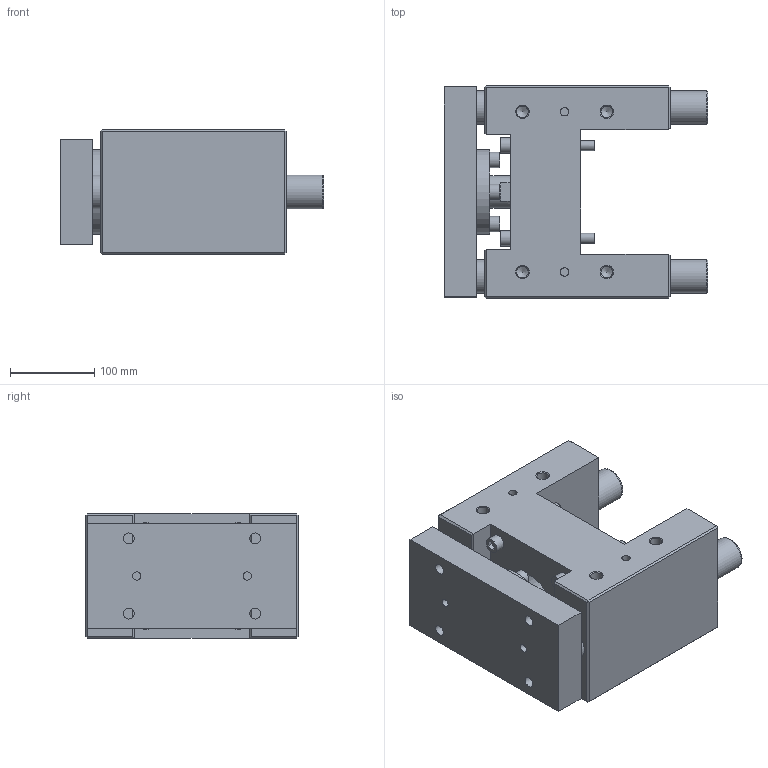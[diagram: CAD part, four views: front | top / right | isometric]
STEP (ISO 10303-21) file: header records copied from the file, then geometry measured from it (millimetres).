
FILE_DESCRIPTION( ( 'STEP AP214' ), '1' );
FILE_NAME( 'U:/Etudes/Top Solid/BIBLIO 3D AVM/TOP/PNEUMATIQUE/GUIDAGES/Type 32 (en H)/S_Lourde/320S0130.step', '2005-05-27T09:29:27', ( ' ' ), ( ' ' ), 'XStep 1.0', ' ', ' ' );
FILE_SCHEMA( ( 'automotive_design' ) );
Length unit declared in the file: metre
Products named in the file (2): 1; 2
Bounding box: 313 x 252 x 148 mm (x, y, z)
Volume: 6396379.3 mm3; surface area: 544677.7 mm2
Topology: 2 solids, 7 shells, 238 faces, 524 edges, 339 vertices
Faces by surface type: plane 149, cylinder 68, cone 21
Full cylindrical faces by diameter (mm): 10 x4, 10.106 x4, 12 x16, 13 x12, 13.835 x8, 18 x8, 20 x4, 24.835 x1, 39 x1, 40 x4, 42 x1, 57 x1, 60 x2, 65 x1, 100 x1
Entity records: 7905 total; most frequent: CARTESIAN_POINT 1198, DIRECTION 996, ORIENTED_EDGE 784, EDGE_CURVE 392, EDGE_LOOP 390, AXIS2_PLACEMENT_3D 372, FACE_OUTER_BOUND 306, VERTEX_POINT 302
